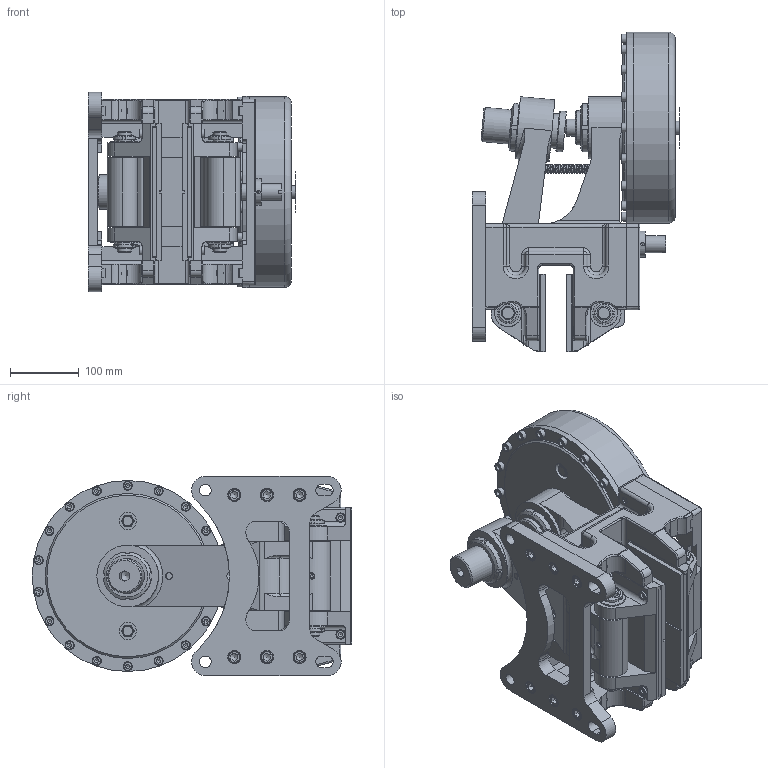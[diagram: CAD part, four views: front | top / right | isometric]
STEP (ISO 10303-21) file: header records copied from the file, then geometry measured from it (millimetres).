
FILE_DESCRIPTION(/* description */ ('','CAx-IF Rec.Pracs.---Representation and Presentation of Product Manufacturing Information (PMI)---4.0---2014-10-13'),/* implementation_level */ '2;1');
FILE_NAME(/* name */ 'X:\INVENTOR\DISEGNI\19_Pinze\STEP x Sito\PNEUM-POSITIVE\19_16_680_05 PPTP680_30.stp',/* time_stamp */ '2018-10-29T09:00:43+01:00',/* author */ ('stefano'),/* organization */ (''),/* preprocessor_version */ 'ST-DEVELOPER v17',/* originating_system */ 'Autodesk Inventor 2018',/* authorisation */ '');
FILE_SCHEMA (('AP242_MANAGED_MODEL_BASED_3D_ENGINEERING_MIM_LF { 1 0 10303 442 1 1 4 }'));
Products named in the file (1): 19_16_680_05 PPTP680_30_Substitute_2
Bounding box: 302.1 x 465 x 290 mm (x, y, z)
Volume: 12363741.1 mm3; surface area: 1083848 mm2
Topology: 1 solids, 1 shells, 1683 faces, 4660 edges, 3053 vertices
Faces by surface type: plane 855, cylinder 455, torus 188, cone 139, bspline 30, sphere 16
Full cylindrical faces by diameter (mm): 1.8 x2, 3 x1, 5.188 x1, 5.25 x4, 7.4 x1, 7.5 x2, 8 x9, 8.376 x1, 8.5 x8, 8.917 x2, 9 x1, 9.188 x1, 10 x2, 10.106 x13, 10.5 x4, 12 x13, 12.5 x12, 13 x27, 13.5 x8, 14 x1, 16.5 x4, 17 x2, 18 x14, 18.631 x1, 19 x12, 19.5 x1, 20 x12, 22 x6, 25 x9, 28 x1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
Entity records: 65111 total; most frequent: CARTESIAN_POINT 20510, ORIENTED_EDGE 9194, DIRECTION 9063, EDGE_CURVE 4597, AXIS2_PLACEMENT_3D 3426, VERTEX_POINT 3053, LINE 2211, VECTOR 2211
